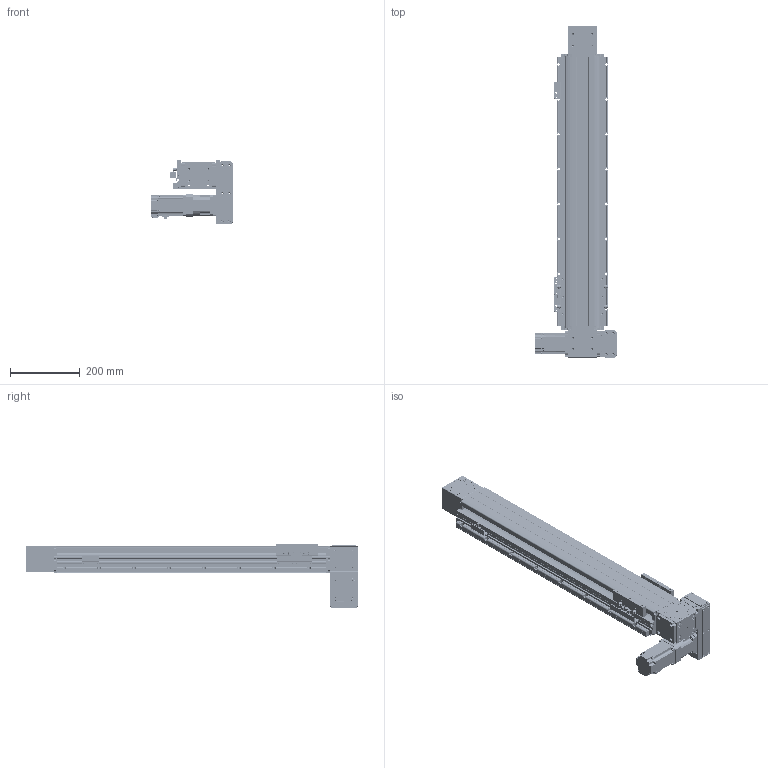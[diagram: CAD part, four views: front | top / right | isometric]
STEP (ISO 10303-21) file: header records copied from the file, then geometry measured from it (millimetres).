
FILE_DESCRIPTION(/* description */ (''),/* implementation_level */ '2;1');
FILE_NAME(/* name */ '\\192.168.0.160\disk1\HAN SHIN Master\B-설계부문\C-표준\B-2024년\BC02-표준도면\+로봇 개선표준도면\홈페이지 표준 도면\홈페이지 최종 작업 폴더\3D\HSB\HSB125\HSB125-DR4G-N-0600-L.stp',/* time_stamp */ '2025-01-11T10:54:35+09:00',/* author */ ('user'),/* organization */ (''),/* preprocessor_version */ 'ST-DEVELOPER v18.1',/* originating_system */ 'Autodesk Inventor 2022',/* authorisation */ '');
FILE_SCHEMA (('AUTOMOTIVE_DESIGN { 1 0 10303 214 3 1 1 }'));
Products named in the file (32): HSB125-D4G-N-0500-L; BASE; REAR COVER; HSB125 FORNT HOUSUNG (Connecting); HSB160 REAR SHAFT-2; REAR SHAFT--2; HSB125 REAR HOUSUNG; TENSION PLATE; HSB160 ARC COVER; UPCOVER; hsr_ftht_A-M6F_grease_nipple_joint; NIPPLE CAP(신규); 6003ZZ; HSB125 TABLE (TEST); HG90STOPPER - 17L; SIDE COVER; PGX62-H-1_3; hg-kr43_; HSB125 END COVER; HSB160 SHAFT-1; NSK_6205; HSB160 BEARING OVER; HR120 SENSOR DOG; SENSOR BRK(EE-SX674A); EE_SX674A; HSB125 D; HSB125 D MOTOR PLATE; HR160 ACRYL COVER - 1; HSB125 D BELT COVER; HR160 ACRYL COVER - 1_1; MOTOR PLATE - 200W; HR160 ACRYL COVER - 1_2
Assembly tree (53 placements, depth 3):
  HSB125-D4G-N-0500-L
    BASE
    REAR COVER  x2
    HSB125 FORNT HOUSUNG (Connecting)
    HSB160 REAR SHAFT-2
    REAR SHAFT--2
    HSB125 REAR HOUSUNG
    TENSION PLATE  x2
    HSB160 ARC COVER  x4
    HG90STOPPER - 17L  x4
    UPCOVER
    NIPPLE CAP(신규)  x4
    hsr_ftht_A-M6F_grease_nipple_joint  x4
    6003ZZ  x2
    HSB125 TABLE (TEST)
    SIDE COVER  x2
    PGX62-H-1_3
    hg-kr43_
    HSB125 END COVER
    HSB160 SHAFT-1
    NSK_6205  x2
    HSB160 BEARING OVER
    SENSOR BRK(EE-SX674A)  x3
    EE_SX674A  x3
    HR120 SENSOR DOG
    HSB125 D
      HSB125 D MOTOR PLATE
      HR160 ACRYL COVER - 1
      HSB125 D BELT COVER
      HR160 ACRYL COVER - 1_1
      HR160 ACRYL COVER - 1_2  x2
      MOTOR PLATE - 200W
Bounding box: 233.3 x 950.5 x 184.5 mm (x, y, z)
Volume: 4088600.4 mm3; surface area: 1423138.2 mm2
Topology: 117 solids, 117 shells, 6743 faces, 18707 edges, 12318 vertices
Faces by surface type: plane 4879, cylinder 1351, cone 353, sphere 72, torus 61, bspline 27
Full cylindrical faces by diameter (mm): 2.459 x76, 3 x20, 3.242 x60, 3.3 x5, 3.4 x42, 3.5 x6, 4 x5, 4.134 x38, 4.2 x10, 4.5 x41, 4.917 x24, 5 x18, 5.5 x55, 5.6 x4, 5.8 x4, 5.9 x8, 6 x12, 6.5 x8, 6.647 x16, 7 x1, 7.5 x24, 8 x4, 8.5 x4, 9 x4, 9.2 x4, 9.5 x27, 12 x2, 14 x1, 14.2 x1, 15 x4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
Entity records: 152792 total; most frequent: CARTESIAN_POINT 30220, ORIENTED_EDGE 25302, DIRECTION 24435, EDGE_CURVE 12651, LINE 9453, VECTOR 9453, VERTEX_POINT 8413, AXIS2_PLACEMENT_3D 7491
